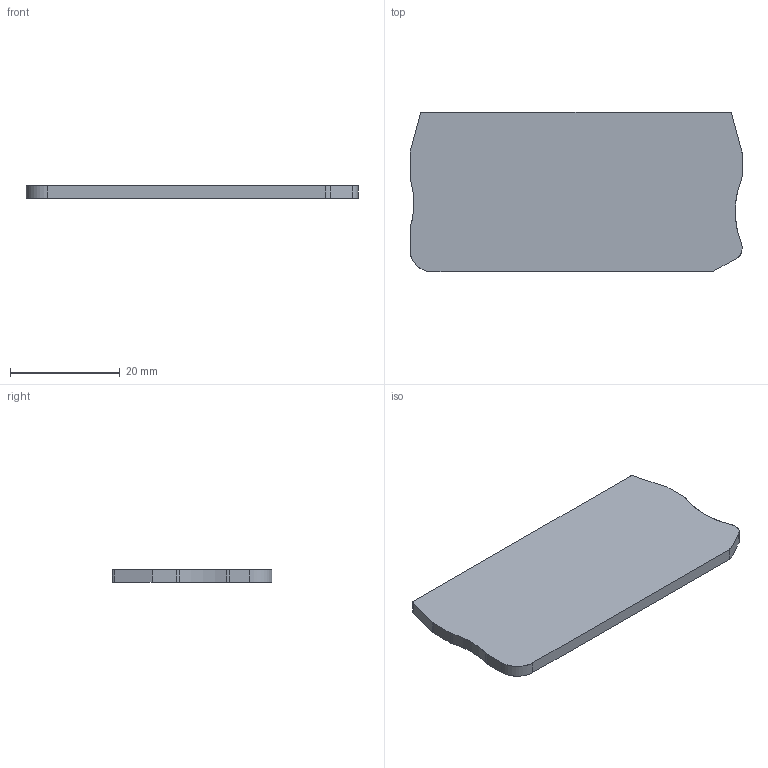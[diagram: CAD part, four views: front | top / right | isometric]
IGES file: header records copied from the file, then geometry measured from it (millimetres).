
Global section: file name: 3030488_d_st25_twin.igs; native system: OneSpace Designer 3D IGES; preprocessor: 11.50A  18-Jul-2002; date: 20040203.104303; units: millimetre
Bounding box: 60.4 x 29.05 x 2.2 mm (x, y, z)
Surface area: 3810.2 mm2 (no closed solid volume)
Topology: 0 solids, 0 shells, 24 faces, 182 edges, 182 vertices
Faces by surface type: bspline 24
